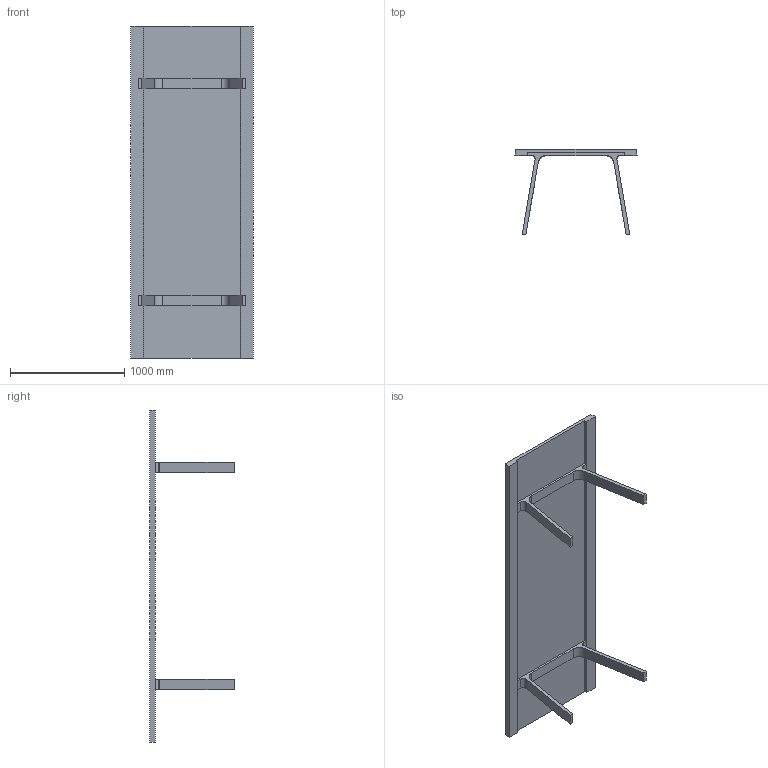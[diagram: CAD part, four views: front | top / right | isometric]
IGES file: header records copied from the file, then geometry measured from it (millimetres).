
Start section: SolidWorks IGES file using analytic representation for surfaces
Global section: file name: G:\Product Info\Doble\3D\solidworks\Doble 290x105x74-poten binnen.IGS; native system: SolidWorks 2008; preprocessor: SolidWorks 2008; author: remko; date: 080826.135553; units: millimetre
Bounding box: 1067.63 x 740 x 2900 mm (x, y, z)
Surface area: 7546399.1 mm2 (no closed solid volume)
Topology: 0 solids, 0 shells, 46 faces, 356 edges, 356 vertices
Faces by surface type: bspline 36, revolution 10
